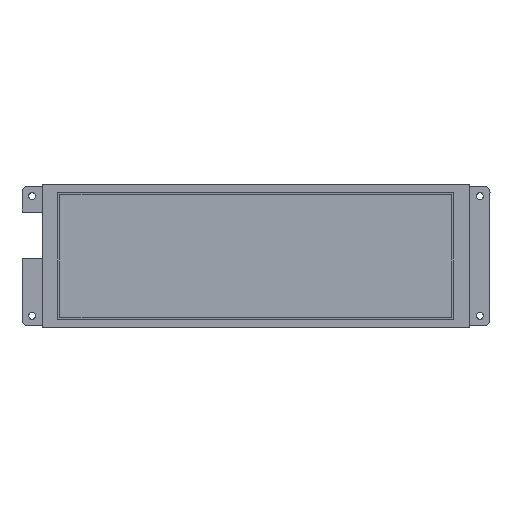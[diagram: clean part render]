
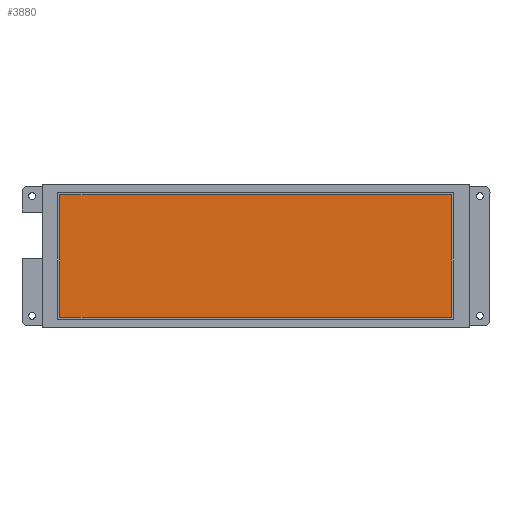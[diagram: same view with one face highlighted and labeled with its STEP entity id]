
A CAD part, top view. The second image highlights one B-rep face of the part: STEP entity #3880.
In plain terms, the highlighted planar face has unit normal (0, 0, 1).
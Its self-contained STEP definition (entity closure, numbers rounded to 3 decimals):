
#953=DIRECTION('',(1.,0.,0.));
#954=VECTOR('',#953,190.08);
#955=CARTESIAN_POINT('',(-95.04,29.7,-0.15));
#956=LINE('',#955,#954);
#961=DIRECTION('',(0.,-1.,0.));
#962=VECTOR('',#961,59.4);
#963=CARTESIAN_POINT('',(95.04,29.7,-0.15));
#964=LINE('',#963,#962);
#969=DIRECTION('',(-1.,0.,0.));
#970=VECTOR('',#969,190.08);
#971=CARTESIAN_POINT('',(95.04,-29.7,-0.15));
#972=LINE('',#971,#970);
#977=DIRECTION('',(0.,1.,0.));
#978=VECTOR('',#977,59.4);
#979=CARTESIAN_POINT('',(-95.04,-29.7,-0.15));
#980=LINE('',#979,#978);
#2252=CARTESIAN_POINT('',(-95.04,29.7,-0.15));
#2253=VERTEX_POINT('',#2252);
#2254=CARTESIAN_POINT('',(95.04,29.7,-0.15));
#2255=VERTEX_POINT('',#2254);
#2256=CARTESIAN_POINT('',(-95.04,-29.7,-0.15));
#2257=VERTEX_POINT('',#2256);
#2258=CARTESIAN_POINT('',(95.04,-29.7,-0.15));
#2259=VERTEX_POINT('',#2258);
#3869=CARTESIAN_POINT('',(0.,0.,-0.15));
#3870=DIRECTION('',(0.,0.,1.));
#3871=DIRECTION('',(1.,0.,0.));
#3872=AXIS2_PLACEMENT_3D('',#3869,#3870,#3871);
#3873=PLANE('',#3872);
#3874=ORIENTED_EDGE('',*,*,#3821,.T.);
#3875=ORIENTED_EDGE('',*,*,#3836,.T.);
#3876=ORIENTED_EDGE('',*,*,#3850,.T.);
#3877=ORIENTED_EDGE('',*,*,#3863,.T.);
#3878=EDGE_LOOP('',(#3874,#3875,#3876,#3877));
#3879=FACE_OUTER_BOUND('',#3878,.F.);
#3821=EDGE_CURVE('',#2253,#2255,#956,.T.);
#3836=EDGE_CURVE('',#2255,#2259,#964,.T.);
#3850=EDGE_CURVE('',#2259,#2257,#972,.T.);
#3863=EDGE_CURVE('',#2257,#2253,#980,.T.);
#3880=ADVANCED_FACE('',(#3879),#3873,.T.);
